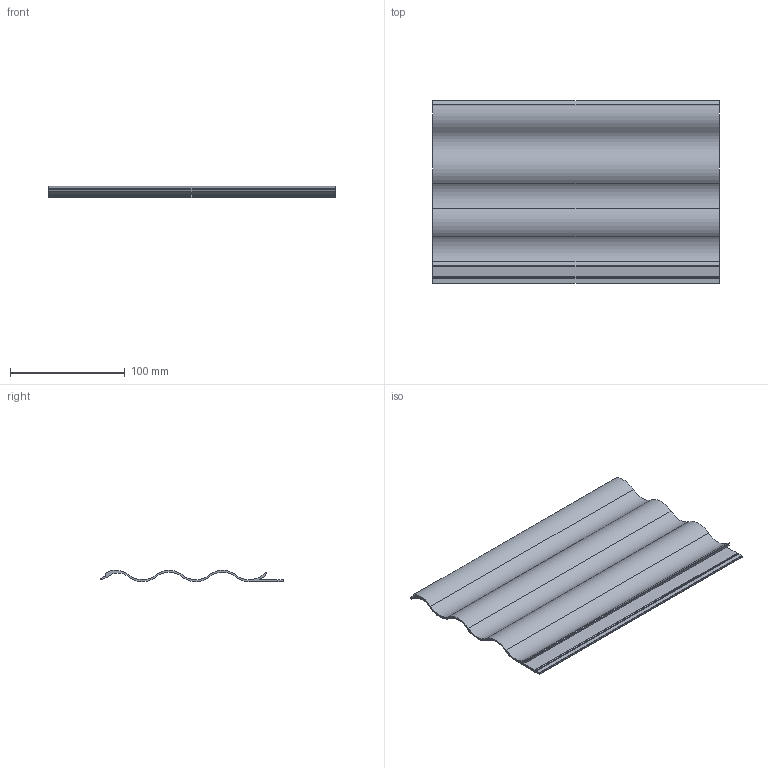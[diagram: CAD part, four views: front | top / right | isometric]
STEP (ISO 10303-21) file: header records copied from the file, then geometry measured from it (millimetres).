
FILE_DESCRIPTION((''),'2;1');
FILE_NAME('F:\Prefa\Projekte\Produktzeichnung\PREFA Profilwelle Typ_10_47_2mm\IPT\PREFA Profilwelle Typ_10_47_2_120621.stp','2014-01-16T10:28:44',('MuellnAn'),(''),'Autodesk Inventor 2013','Autodesk Inventor 2013','');
FILE_SCHEMA(('AUTOMOTIVE_DESIGN { 1 0 10303 214 1 1 1 1 }'));
Length unit declared in the file: millimetre
Products named in the file (1): PREFA Profilwelle Typ_10_47_2_120621
Bounding box: 250 x 159.62 x 10 mm (x, y, z)
Volume: 85512.7 mm3; surface area: 90764.9 mm2
Topology: 1 solids, 1 shells, 38 faces, 108 edges, 72 vertices
Faces by surface type: cylinder 24, plane 14
Entity records: 1288 total; most frequent: DIRECTION 234, CARTESIAN_POINT 219, ORIENTED_EDGE 216, EDGE_CURVE 108, AXIS2_PLACEMENT_3D 87, VERTEX_POINT 72, VECTOR 60, LINE 60
